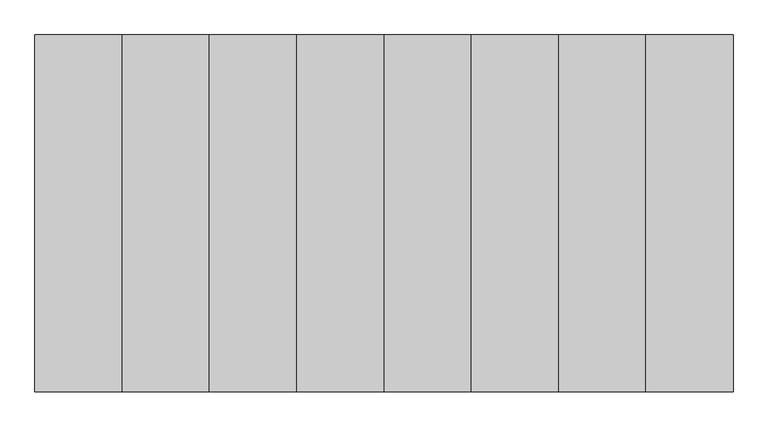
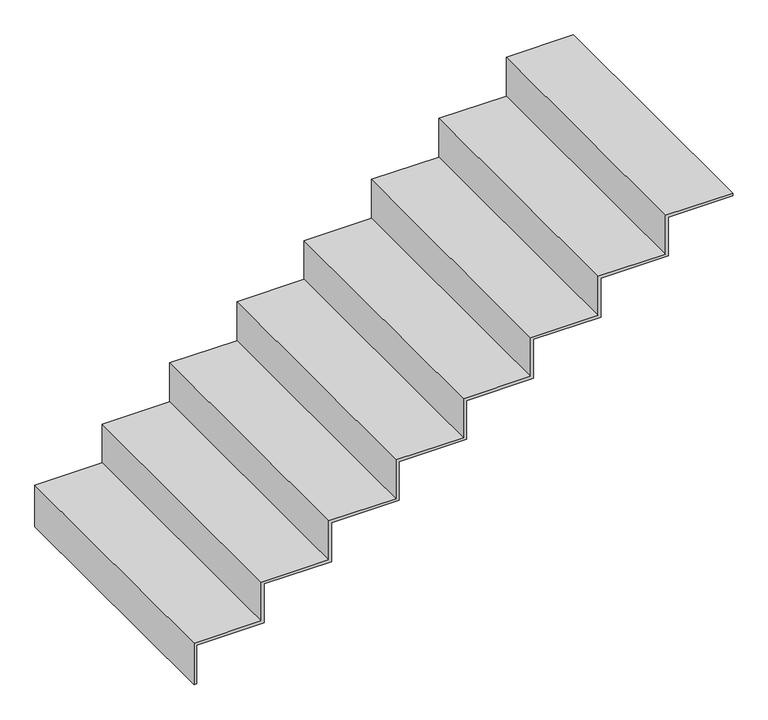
"""IFC4 building model written with IfcOpenShell, lengths in millimetres: stair flight geometry, HUELLA 50MM-CONTRAHUELLA 13MM."""

from ifc_helpers import new_model, si_unit, frame, origin, place, context, project, spatial, polyline, outline, extrude, source, transform, mapped, element, save


def stair_flight_dd92347f(model_context):
    return source(origin(), model_context, "Body", "SweptSolid", [
        extrude(outline(polyline([(1729.6052632, 4890.7173693), (1729.6052632, 4903.2173693), (1903.8157895, 4903.2173693), (1903.8157895, 5189.2173693), (2078.0263158, 5189.2173693), (2078.0263158, 5475.2173693), (2252.2368421, 5475.2173693), (2252.2368421, 5761.2173693), (2426.4473684, 5761.2173693), (2426.4473684, 6047.2173693), (2600.6578947, 6047.2173693), (2600.6578947, 6333.2173693), (2774.8684211, 6333.2173693), (2774.8684211, 6619.2173693), (2949.0789474, 6619.2173693), (2949.0789474, 6905.2173693), (3123.2894737, 6905.2173693), (3123.2894737, 7178.7173693), (3135.7894737, 7178.7173693), (3135.7894737, 6892.7173693), (2961.5789474, 6892.7173693), (2961.5789474, 6606.7173693), (2787.3684211, 6606.7173693), (2787.3684211, 6320.7173693), (2613.1578947, 6320.7173693), (2613.1578947, 6034.7173693), (2438.9473684, 6034.7173693), (2438.9473684, 5748.7173693), (2264.7368421, 5748.7173693), (2264.7368421, 5462.7173693), (2090.5263158, 5462.7173693), (2090.5263158, 5176.7173693), (1916.3157895, 5176.7173693), (1916.3157895, 4890.7173693), (1729.6052632, 4890.7173693)])), frame((0.0, 8750.2304035, 0.0), z_axis=(0.0, 1.0, 0.0), x_axis=(0.0, 0.0, 1.0)), (0.0, 0.0, 1.0), 1170.0),
    ])


if __name__ == "__main__":
    model = new_model("IFC4")
    model_context = context("Model", 3, world=origin())
    ifc_project = project(units=[si_unit("LENGTHUNIT", "METRE", prefix="MILLI")], contexts=[model_context])
    site = spatial("IfcSite", under=ifc_project)
    building = spatial("IfcBuilding", under=site)
    placement = place(None, origin())
    stair_flight_shape = stair_flight_dd92347f(model_context)
    element("IfcStairFlight", 1, ObjectType="HUELLA 50MM-CONTRAHUELLA 13MM", at=placement, inside=building, context=model_context, shape_type="MappedRepresentation", body=[
        mapped(stair_flight_shape, transform((0.0, 0.0, 0.0), x_axis=(1.0, 0.0, 0.0), y_axis=(0.0, 1.0, 0.0), z_axis=(0.0, 0.0, 1.0))),
    ])
    save(model, "model.ifc")
